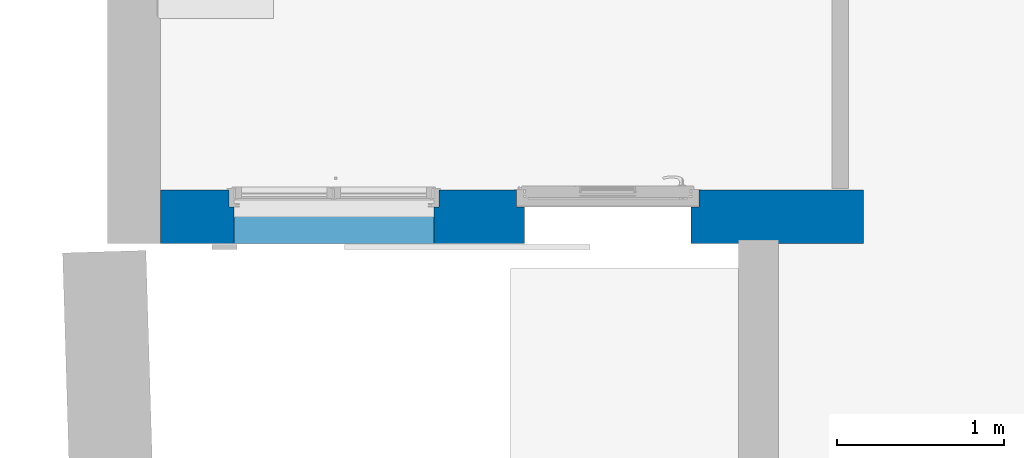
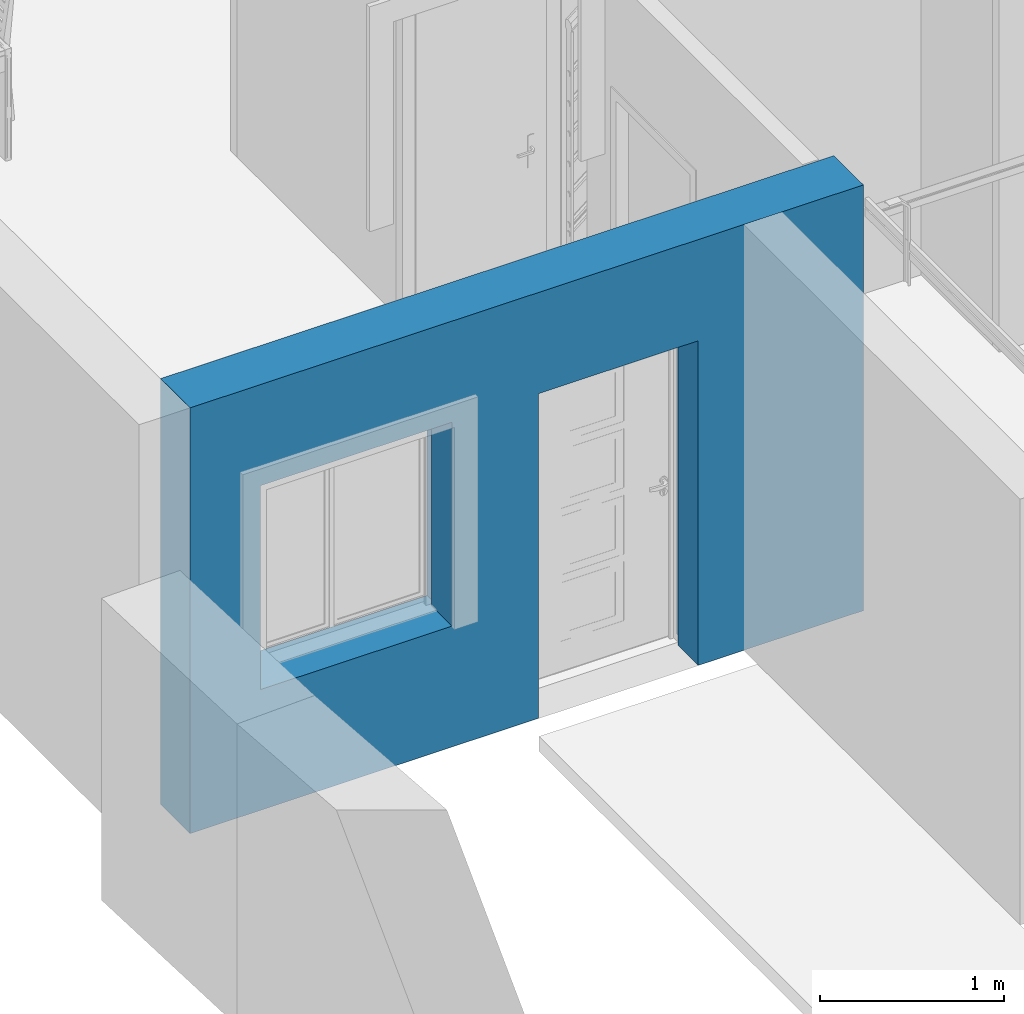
# One storey, part 2 of 30: 1 wall, 2 openings.
"""IFC2X3 building model written with IfcOpenShell, lengths in metres."""

from ifc_helpers import new_model, entity, si_unit, converted_unit, derived_unit, direction, frame, frame_2d, origin, place, context, subcontext, project, spatial, rectangle, extrude, faceted_brep, material, layer, layer_set, layer_usage, type_object, element, save


model = new_model("IFC2X3")

# Units and contexts
model_context = context("Model", 3, precision=1e-05, world=origin(), true_north=direction((6.12303176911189e-17, 1.0)))
body_context = subcontext(model_context, "Body", "Model", "MODEL_VIEW")
ifc_project = project(units=[si_unit("LENGTHUNIT", "METRE"), si_unit("AREAUNIT", "SQUARE_METRE"), si_unit("VOLUMEUNIT", "CUBIC_METRE"), converted_unit("PLANEANGLEUNIT", "DEGREE", entity("IfcRatioMeasure", 0.0174532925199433), si_unit("PLANEANGLEUNIT", "RADIAN"), dimensions=[0, 0, 0, 0, 0, 0, 0]), si_unit("MASSUNIT", "GRAM", prefix="KILO"), derived_unit("MASSDENSITYUNIT", [(si_unit("MASSUNIT", "GRAM", prefix="KILO"), 1), (si_unit("LENGTHUNIT", "METRE"), -3)]), si_unit("TIMEUNIT", "SECOND"), si_unit("FREQUENCYUNIT", "HERTZ"), si_unit("THERMODYNAMICTEMPERATUREUNIT", "DEGREE_CELSIUS"), derived_unit("THERMALTRANSMITTANCEUNIT", [(si_unit("MASSUNIT", "GRAM", prefix="KILO"), 1), (si_unit("THERMODYNAMICTEMPERATUREUNIT", "KELVIN"), -1), (si_unit("TIMEUNIT", "SECOND"), -3)]), derived_unit("VOLUMETRICFLOWRATEUNIT", [(si_unit("LENGTHUNIT", "METRE"), 3), (si_unit("TIMEUNIT", "SECOND"), -1)]), si_unit("ELECTRICCURRENTUNIT", "AMPERE"), si_unit("ELECTRICVOLTAGEUNIT", "VOLT"), si_unit("POWERUNIT", "WATT"), si_unit("FORCEUNIT", "NEWTON", prefix="KILO"), si_unit("ILLUMINANCEUNIT", "LUX"), si_unit("LUMINOUSFLUXUNIT", "LUMEN"), si_unit("LUMINOUSINTENSITYUNIT", "CANDELA"), derived_unit("USERDEFINED", [(si_unit("MASSUNIT", "GRAM", prefix="KILO"), -1), (si_unit("LENGTHUNIT", "METRE"), -2), (si_unit("TIMEUNIT", "SECOND"), 3), (si_unit("LUMINOUSFLUXUNIT", "LUMEN"), 1)]), derived_unit("LINEARVELOCITYUNIT", [(si_unit("LENGTHUNIT", "METRE"), 1), (si_unit("TIMEUNIT", "SECOND"), -1)]), si_unit("PRESSUREUNIT", "PASCAL"), derived_unit("USERDEFINED", [(si_unit("LENGTHUNIT", "METRE"), -2), (si_unit("MASSUNIT", "GRAM", prefix="KILO"), 1), (si_unit("TIMEUNIT", "SECOND"), -2)])], contexts=[model_context])

# Site, building, storey
site_placement = place(None, origin())
site = spatial("IfcSite", under=ifc_project, at=site_placement, Name="Surface", CompositionType="ELEMENT")
building_placement = place(site_placement, origin())
building = spatial("IfcBuilding", under=site, at=building_placement, CompositionType="ELEMENT")
storey_placement = place(building_placement, origin())
storey = spatial("IfcBuildingStorey", under=building, at=storey_placement, Name="Plan des fondations  Maisons 1 et 2", CompositionType="ELEMENT", Elevation=0.0)

# Wall, openings
ifc_material_1 = material(Name="Enduit blanc cassé2")
ifc_layer_1 = layer(ifc_material_1, 0.02)
ifc_material_2 = material(Name="Parpaing")
ifc_layer_2 = layer(ifc_material_2, 0.2)
ifc_material_3 = material(Name="Isolant")
ifc_layer_3 = layer(ifc_material_3, 0.1)
ifc_layer_set = layer_set([ifc_layer_1, ifc_layer_2, ifc_layer_3], Name="Mur de base:Ext. Parpaing 20 + Isolant 10 enduit blanc cassé")
ifc_layer_usage = layer_usage(ifc_layer_set, "AXIS2", "POSITIVE", -0.16)
wall_type = type_object("IfcWallType", Name="Mur de base:Ext. Parpaing 20 + Isolant 10 enduit blanc cassé", PredefinedType="STANDARD", material=ifc_layer_set)
wall_placement = place(storey_placement, frame((61.7063634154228, 80.0477566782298, 0.0)))
wall = element("IfcWallStandardCase", 1, at=wall_placement, inside=storey, type_object=wall_type, material=ifc_layer_usage, Name="Mur de base:Ext. Parpaing 20 + Isolant 10 enduit blanc cassé", ObjectType="Mur de base:Ext. Parpaing 20 + Isolant 10 enduit blanc cassé", context=body_context, shape_type="SweptSolid", body=[
    extrude(rectangle(XDim=4.21826294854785, YDim=0.319999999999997, at=frame_2d((2.10913147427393, 2.88657986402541e-15), x_axis=(-1.0, 0.0))), origin(), (0.0, 0.0, 1.0), 2.82),
])
opening_1_placement = place(wall_placement, frame((2.13576230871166, -0.160000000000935, 0.0)))
element("IfcOpeningElement", 2, at=opening_1_placement, cuts=wall, Name="Mur de base:Ext. Parpaing 20 + Isolant 10 enduit blanc cassé", ObjectType="Opening", context=body_context, shape_type="Brep", body=[
    faceted_brep([(0.0, 0.320000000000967, 0.0), (0.0, 0.320000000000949, 2.19749999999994), (1.0950012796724, 0.320000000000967, 2.19749999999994), (1.0950012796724, 0.320000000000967, 0.0), (0.0475006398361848, 0.0, 2.15), (0.0475006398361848, 0.0, 0.0), (1.04750063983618, 0.0, 0.0), (1.04750063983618, 0.0, 2.15), (1.04750063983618, 0.220000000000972, 2.15), (0.0475006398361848, 0.220000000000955, 2.15), (1.04750063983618, 0.220000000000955, 0.0), (0.0475006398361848, 0.220000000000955, 0.0), (0.0, 0.220000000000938, 0.0), (1.0950012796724, 0.220000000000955, 0.0), (0.0, 0.220000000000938, 2.19749999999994), (1.0950012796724, 0.220000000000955, 2.19749999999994)], [[[0, 1, 2, 3]], [[4, 5, 6, 7]], [[7, 8, 9, 4]], [[6, 10, 8, 7]], [[5, 11, 12, 0, 3, 13, 10, 6]], [[4, 9, 11, 5]], [[1, 14, 15, 2]], [[14, 12, 11, 9, 8, 10, 13, 15]], [[13, 3, 2, 15]], [[0, 12, 14, 1]]]),
])
opening_2_placement = place(wall_placement, frame((0.39999999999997, -0.460000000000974, 0.799999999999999)))
element("IfcOpeningElement", 3, at=opening_2_placement, cuts=wall, Name="Mur de base:Ext. Parpaing 20 + Isolant 10 enduit blanc cassé", ObjectType="Opening", context=body_context, shape_type="Brep", body=[
    faceted_brep([(0.0400000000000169, 0.0, 1.35), (1.24000000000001, 0.0, 1.35), (1.24, 0.520000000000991, 1.35), (0.0400000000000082, 0.520000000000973, 1.35), (1.24000000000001, 0.0, 0.0), (0.0400000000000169, 0.0, 0.0), (0.0400000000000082, 0.520000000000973, 0.0), (0.0100000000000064, 0.520000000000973, 0.0), (0.0100000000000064, 0.620000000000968, 0.0), (0.0400000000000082, 0.620000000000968, 0.0), (0.0400000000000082, 0.72000000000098, 0.0), (1.24, 0.72000000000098, 0.0), (1.24, 0.620000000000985, 0.0), (1.27000000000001, 0.620000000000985, 0.0), (1.27000000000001, 0.520000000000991, 0.0), (1.24, 0.520000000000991, 0.0), (0.0400000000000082, 0.72000000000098, 1.35), (1.24, 0.72000000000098, 1.35), (0.00999999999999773, 0.620000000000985, 1.38), (0.0, 0.620000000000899, 1.38000000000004), (0.0, 0.620000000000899, 1.59000000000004), (1.28000000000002, 0.620000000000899, 1.59000000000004), (1.28000000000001, 0.620000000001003, 1.38000000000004), (1.27000000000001, 0.620000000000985, 1.38), (1.24, 0.620000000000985, 1.35), (0.0399999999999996, 0.620000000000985, 1.35), (0.0100000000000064, 0.520000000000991, 1.38000000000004), (1.27, 0.520000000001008, 1.38000000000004), (1.28000000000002, 0.520000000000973, 1.38000000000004), (1.28000000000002, 0.520000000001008, 1.59000000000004), (0.0, 0.520000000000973, 1.59000000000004), (0.0, 0.520000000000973, 1.38000000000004)], [[[0, 1, 2, 3]], [[4, 5, 6, 7, 8, 9, 10, 11, 12, 13, 14, 15]], [[1, 0, 5, 4]], [[5, 0, 3, 6]], [[16, 17, 11, 10]], [[1, 4, 15, 2]], [[9, 8, 18, 19, 20, 21, 22, 23, 13, 12, 24, 25]], [[8, 7, 26, 18]], [[7, 6, 3, 2, 15, 14, 27, 28, 29, 30, 31, 26]], [[13, 23, 27, 14]], [[31, 30, 20, 19]], [[28, 22, 21, 29]], [[31, 19, 18, 26]], [[20, 30, 29, 21]], [[22, 28, 27, 23]], [[11, 17, 24, 12]], [[16, 10, 9, 25]], [[17, 16, 25, 24]]]),
])

save(model, "model.ifc")
